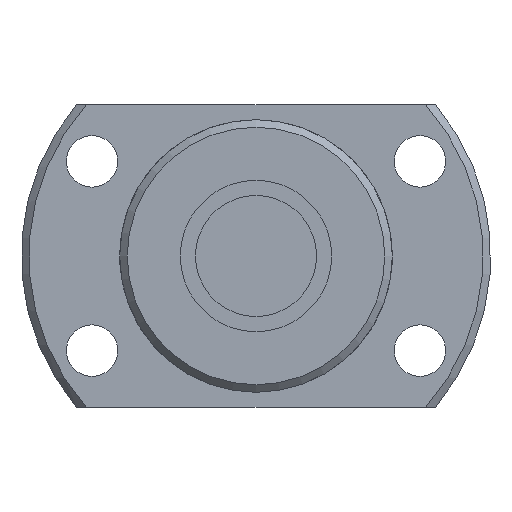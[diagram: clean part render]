
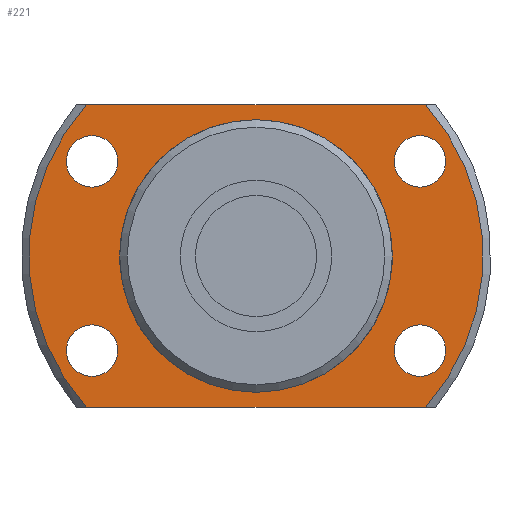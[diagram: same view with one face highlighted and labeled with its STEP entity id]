
A CAD part, left-side view. The second image highlights one B-rep face of the part: STEP entity #221.
In plain terms, the highlighted planar face has unit normal (-1, 0, 0).
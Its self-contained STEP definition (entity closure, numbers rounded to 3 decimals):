
#221 = ADVANCED_FACE( '', ( #354, #355, #356, #357, #358, #359 ), #360, .F. );
#354 = FACE_OUTER_BOUND( '', #501, .T. );
#355 = FACE_BOUND( '', #502, .T. );
#356 = FACE_BOUND( '', #503, .T. );
#357 = FACE_BOUND( '', #504, .T. );
#358 = FACE_BOUND( '', #505, .T. );
#359 = FACE_BOUND( '', #506, .T. );
#360 = PLANE( '', #507 );
#501 = EDGE_LOOP( '', ( #903, #904, #905, #906 ) );
#502 = EDGE_LOOP( '', ( #907 ) );
#503 = EDGE_LOOP( '', ( #908 ) );
#504 = EDGE_LOOP( '', ( #909 ) );
#505 = EDGE_LOOP( '', ( #910 ) );
#506 = EDGE_LOOP( '', ( #911 ) );
#507 = AXIS2_PLACEMENT_3D( '', #912, #913, #914 );
#903 = ORIENTED_EDGE( '', *, *, #984, .F. );
#904 = ORIENTED_EDGE( '', *, *, #1068, .T. );
#905 = ORIENTED_EDGE( '', *, *, #1062, .F. );
#906 = ORIENTED_EDGE( '', *, *, #978, .T. );
#907 = ORIENTED_EDGE( '', *, *, #1028, .T. );
#908 = ORIENTED_EDGE( '', *, *, #1026, .T. );
#909 = ORIENTED_EDGE( '', *, *, #1024, .T. );
#910 = ORIENTED_EDGE( '', *, *, #1022, .T. );
#911 = ORIENTED_EDGE( '', *, *, #1064, .T. );
#912 = CARTESIAN_POINT( '', ( 24., 8.85, 0. ) );
#913 = DIRECTION( '', ( 1., 0., 0. ) );
#914 = DIRECTION( '', ( 0., 0., -1. ) );
#978 = EDGE_CURVE( '', #1129, #1127, #1130, .T. );
#984 = EDGE_CURVE( '', #1140, #1127, #1141, .T. );
#1022 = EDGE_CURVE( '', #1208, #1208, #1209, .T. );
#1024 = EDGE_CURVE( '', #1212, #1212, #1213, .T. );
#1026 = EDGE_CURVE( '', #1216, #1216, #1217, .T. );
#1028 = EDGE_CURVE( '', #1220, #1220, #1221, .T. );
#1062 = EDGE_CURVE( '', #1129, #1273, #1274, .T. );
#1064 = EDGE_CURVE( '', #1276, #1276, #1277, .T. );
#1068 = EDGE_CURVE( '', #1140, #1273, #1282, .T. );
#1127 = VERTEX_POINT( '', #1392 );
#1129 = VERTEX_POINT( '', #1397 );
#1130 = LINE( '', #1398, #1399 );
#1140 = VERTEX_POINT( '', #1420 );
#1141 = CIRCLE( '', #1421, 15. );
#1208 = VERTEX_POINT( '', #1527 );
#1209 = CIRCLE( '', #1528, 1.7 );
#1212 = VERTEX_POINT( '', #1531 );
#1213 = CIRCLE( '', #1532, 1.7 );
#1216 = VERTEX_POINT( '', #1535 );
#1217 = CIRCLE( '', #1536, 1.7 );
#1220 = VERTEX_POINT( '', #1539 );
#1221 = CIRCLE( '', #1540, 1.7 );
#1273 = VERTEX_POINT( '', #1613 );
#1274 = CIRCLE( '', #1614, 15. );
#1276 = VERTEX_POINT( '', #1619 );
#1277 = CIRCLE( '', #1620, 8.85 );
#1282 = LINE( '', #1625, #1626 );
#1392 = CARTESIAN_POINT( '', ( 24., 11.18, 10. ) );
#1397 = CARTESIAN_POINT( '', ( 24., -11.18, 10. ) );
#1398 = CARTESIAN_POINT( '', ( 24., 8.85, 10. ) );
#1399 = VECTOR( '', #1680, 1000. );
#1420 = CARTESIAN_POINT( '', ( 24., 11.18, -10. ) );
#1421 = AXIS2_PLACEMENT_3D( '', #1683, #1684, #1685 );
#1527 = CARTESIAN_POINT( '', ( 24., 10.825, 4.55 ) );
#1528 = AXIS2_PLACEMENT_3D( '', #1746, #1747, #1748 );
#1531 = CARTESIAN_POINT( '', ( 24., 10.825, -7.95 ) );
#1532 = AXIS2_PLACEMENT_3D( '', #1752, #1753, #1754 );
#1535 = CARTESIAN_POINT( '', ( 24., -10.825, -7.95 ) );
#1536 = AXIS2_PLACEMENT_3D( '', #1758, #1759, #1760 );
#1539 = CARTESIAN_POINT( '', ( 24., -10.825, 4.55 ) );
#1540 = AXIS2_PLACEMENT_3D( '', #1764, #1765, #1766 );
#1613 = CARTESIAN_POINT( '', ( 24., -11.18, -10. ) );
#1614 = AXIS2_PLACEMENT_3D( '', #1830, #1831, #1832 );
#1619 = CARTESIAN_POINT( '', ( 24., 0., -8.85 ) );
#1620 = AXIS2_PLACEMENT_3D( '', #1833, #1834, #1835 );
#1625 = CARTESIAN_POINT( '', ( 24., 8.85, -10. ) );
#1626 = VECTOR( '', #1845, 1000. );
#1680 = DIRECTION( '', ( 0., 1., 0. ) );
#1683 = CARTESIAN_POINT( '', ( 24., 0., 0. ) );
#1684 = DIRECTION( '', ( 1., 0., 0. ) );
#1685 = DIRECTION( '', ( 0., 0., -1. ) );
#1746 = CARTESIAN_POINT( '', ( 24., 10.825, 6.25 ) );
#1747 = DIRECTION( '', ( 1., 0., 0. ) );
#1748 = DIRECTION( '', ( 0., 0., -1. ) );
#1752 = CARTESIAN_POINT( '', ( 24., 10.825, -6.25 ) );
#1753 = DIRECTION( '', ( 1., 0., 0. ) );
#1754 = DIRECTION( '', ( 0., 0., -1. ) );
#1758 = CARTESIAN_POINT( '', ( 24., -10.825, -6.25 ) );
#1759 = DIRECTION( '', ( 1., 0., 0. ) );
#1760 = DIRECTION( '', ( 0., 0., -1. ) );
#1764 = CARTESIAN_POINT( '', ( 24., -10.825, 6.25 ) );
#1765 = DIRECTION( '', ( 1., 0., 0. ) );
#1766 = DIRECTION( '', ( 0., 0., -1. ) );
#1830 = CARTESIAN_POINT( '', ( 24., 0., 0. ) );
#1831 = DIRECTION( '', ( 1., 0., 0. ) );
#1832 = DIRECTION( '', ( 0., 0., -1. ) );
#1833 = CARTESIAN_POINT( '', ( 24., 0., 0. ) );
#1834 = DIRECTION( '', ( 1., 0., 0. ) );
#1835 = DIRECTION( '', ( 0., 0., -1. ) );
#1845 = DIRECTION( '', ( 0., -1., 0. ) );
